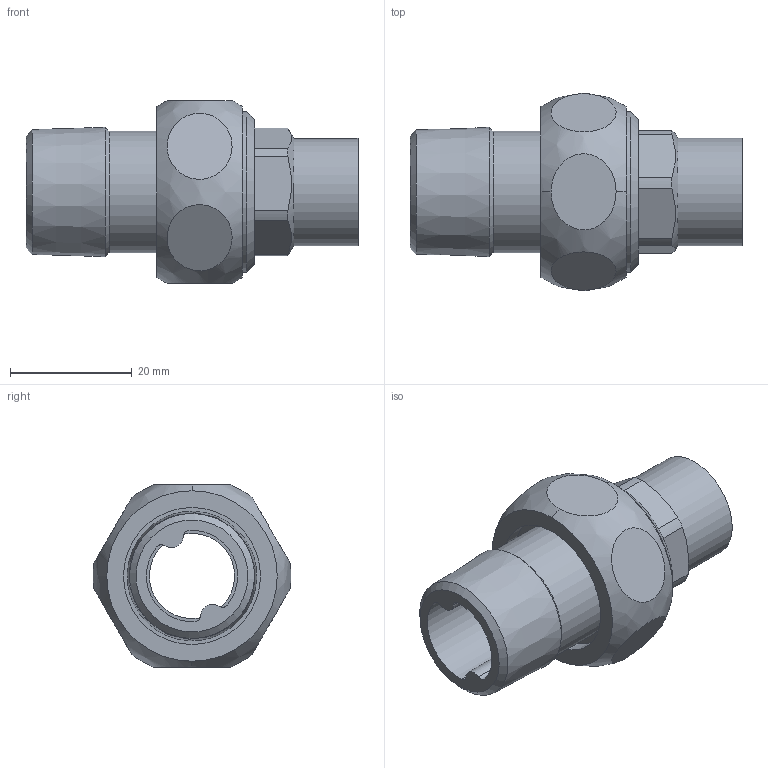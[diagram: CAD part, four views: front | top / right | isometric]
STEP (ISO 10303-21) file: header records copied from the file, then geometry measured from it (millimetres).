
FILE_DESCRIPTION((''),'2;1');
FILE_NAME('C:\Documents and Settings\pajchrowski\Desktop\14331_15-12.stp','2010-03-18T09:30:21',('pajchrowski'),(''),'Autodesk Inventor 2009','Autodesk Inventor 2009','');
FILE_SCHEMA(('AUTOMOTIVE_DESIGN { 1 0 10303 214 1 1 1 1 }'));
Length unit declared in the file: millimetre
Products named in the file (5): 14331_15-12; 14374_34; 14371_12-34(1); 1DCU34; 14370_15-34(1)
Assembly tree (4 placements, depth 2):
  14331_15-12
    14374_34
    14371_12-34(1)
    1DCU34
    14370_15-34(1)
Bounding box: 54.5 x 32.5 x 30 mm (x, y, z)
Volume: 13972.4 mm3; surface area: 10677.9 mm2
Topology: 4 solids, 4 shells, 63 faces, 140 edges, 93 vertices
Faces by surface type: cylinder 30, plane 24, cone 7, bspline 2
Full cylindrical faces by diameter (mm): 14 x1, 15 x1, 17.6 x1, 20 x1, 22.5 x1, 23.5 x1, 24.12 x1, 26.441 x1
Entity records: 2185 total; most frequent: CARTESIAN_POINT 652, DIRECTION 326, ORIENTED_EDGE 248, AXIS2_PLACEMENT_3D 146, EDGE_CURVE 124, EDGE_LOOP 94, VERTEX_POINT 92, CIRCLE 76
